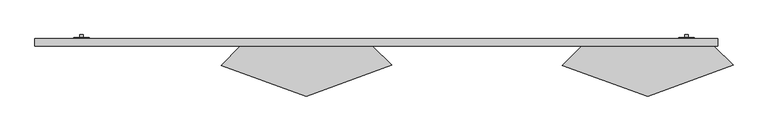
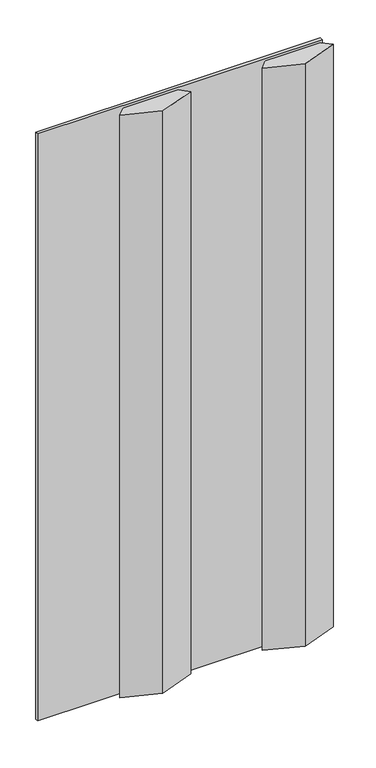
"""IFC4 building model written with IfcOpenShell, lengths in millimetres: proxy geometry, Arktura-SoundForm-Peak-RFA : Arktura-SoundForm-Peak-RFA."""

from ifc_helpers import new_model, si_unit, point, frame, frame_2d, origin, origin_with_axes, place, context, project, spatial, polyline, circle_curve, trimmed, segment, composite_curve, outline, extrude, source, transform, mapped, element, save


def generic_models_549c58fc(model_context):
    return source(origin(), model_context, "Body", "SweptSolid", [
        extrude(outline(polyline([(558.8, -31.75), (533.4, -31.75), (533.4, -30.3215536), (558.8, -30.3215536), (558.8, -31.75)])), frame((0.0, 0.0, 1206.5), z_axis=(0.0, 0.0, 1.0), x_axis=(1.0, 0.0, 0.0)), (0.0, 0.0, 1.0), 25.4),
        extrude(outline(composite_curve([segment(trimmed(circle_curve(frame_2d((1219.2, 546.1)), 3.175), [point((1219.2, 542.925))], [point((1219.2, 549.275))], False, "CARTESIAN"), True, "CONTINUOUS"), segment(trimmed(circle_curve(frame_2d((1219.2, 546.1)), 3.175), [point((1219.2, 549.275))], [point((1219.2, 542.925))], False, "CARTESIAN"), True, "CONTINUOUS")], self_intersect=False)), frame((0.0, -30.3215536, 0.0), z_axis=(0.0, 1.0, 0.0), x_axis=(0.0, 0.0, 1.0)), (0.0, 0.0, 1.0), 4.9215536),
        extrude(outline(polyline([(-431.8, -31.75), (-457.2, -31.75), (-457.2, -30.3215536), (-431.8, -30.3215536), (-431.8, -31.75)])), frame((0.0, 0.0, 1206.5), z_axis=(0.0, 0.0, 1.0), x_axis=(1.0, 0.0, 0.0)), (0.0, 0.0, 1.0), 25.4),
        extrude(outline(composite_curve([segment(trimmed(circle_curve(frame_2d((1219.2, -444.5)), 3.175), [point((1219.2, -447.675))], [point((1219.2, -441.325))], False, "CARTESIAN"), True, "CONTINUOUS"), segment(trimmed(circle_curve(frame_2d((1219.2, -444.5)), 3.175), [point((1219.2, -441.325))], [point((1219.2, -447.675))], False, "CARTESIAN"), True, "CONTINUOUS")], self_intersect=False)), frame((0.0, -30.3215536, 0.0), z_axis=(0.0, 1.0, 0.0), x_axis=(0.0, 0.0, 1.0)), (0.0, 0.0, 1.0), 4.9215536),
        extrude(outline(polyline([(558.8, -31.75), (533.4, -31.75), (533.4, -30.3215536), (558.8, -30.3215536), (558.8, -31.75)])), frame((0.0, 0.0, 2352.675), z_axis=(0.0, 0.0, 1.0), x_axis=(1.0, 0.0, 0.0)), (0.0, 0.0, 1.0), 25.4),
        extrude(outline(composite_curve([segment(trimmed(circle_curve(frame_2d((2365.375, 546.1)), 3.175), [point((2365.375, 542.925))], [point((2365.375, 549.275))], False, "CARTESIAN"), True, "CONTINUOUS"), segment(trimmed(circle_curve(frame_2d((2365.375, 546.1)), 3.175), [point((2365.375, 549.275))], [point((2365.375, 542.925))], False, "CARTESIAN"), True, "CONTINUOUS")], self_intersect=False)), frame((0.0, -30.3215536, 0.0), z_axis=(0.0, 1.0, 0.0), x_axis=(0.0, 0.0, 1.0)), (0.0, 0.0, 1.0), 4.9215536),
        extrude(outline(polyline([(-431.8, -31.75), (-457.2, -31.75), (-457.2, -30.3215536), (-431.8, -30.3215536), (-431.8, -31.75)])), frame((0.0, 0.0, 2352.675), z_axis=(0.0, 0.0, 1.0), x_axis=(1.0, 0.0, 0.0)), (0.0, 0.0, 1.0), 25.4),
        extrude(outline(composite_curve([segment(trimmed(circle_curve(frame_2d((2365.375, -444.5)), 3.175), [point((2365.375, -447.675))], [point((2365.375, -441.325))], False, "CARTESIAN"), True, "CONTINUOUS"), segment(trimmed(circle_curve(frame_2d((2365.375, -444.5)), 3.175), [point((2365.375, -441.325))], [point((2365.375, -447.675))], False, "CARTESIAN"), True, "CONTINUOUS")], self_intersect=False)), frame((0.0, -30.3215536, 0.0), z_axis=(0.0, 1.0, 0.0), x_axis=(0.0, 0.0, 1.0)), (0.0, 0.0, 1.0), 4.9215536),
        extrude(outline(polyline([(558.8, -31.75), (533.4, -31.75), (533.4, -30.3215536), (558.8, -30.3215536), (558.8, -31.75)])), frame((0.0, 0.0, 60.325), z_axis=(0.0, 0.0, 1.0), x_axis=(1.0, 0.0, 0.0)), (0.0, 0.0, 1.0), 25.4),
        extrude(outline(composite_curve([segment(trimmed(circle_curve(frame_2d((73.025, 546.1)), 3.175), [point((73.025, 542.925))], [point((73.025, 549.275))], False, "CARTESIAN"), True, "CONTINUOUS"), segment(trimmed(circle_curve(frame_2d((73.025, 546.1)), 3.175), [point((73.025, 549.275))], [point((73.025, 542.925))], False, "CARTESIAN"), True, "CONTINUOUS")], self_intersect=False)), frame((0.0, -30.3215536, 0.0), z_axis=(0.0, 1.0, 0.0), x_axis=(0.0, 0.0, 1.0)), (0.0, 0.0, 1.0), 4.9215536),
        extrude(outline(polyline([(-431.8, -31.75), (-457.2, -31.75), (-457.2, -30.3215536), (-431.8, -30.3215536), (-431.8, -31.75)])), frame((0.0, 0.0, 60.325), z_axis=(0.0, 0.0, 1.0), x_axis=(1.0, 0.0, 0.0)), (0.0, 0.0, 1.0), 25.4),
        extrude(outline(composite_curve([segment(trimmed(circle_curve(frame_2d((73.025, -444.5)), 3.175), [point((73.025, -447.675))], [point((73.025, -441.325))], False, "CARTESIAN"), True, "CONTINUOUS"), segment(trimmed(circle_curve(frame_2d((73.025, -444.5)), 3.175), [point((73.025, -441.325))], [point((73.025, -447.675))], False, "CARTESIAN"), True, "CONTINUOUS")], self_intersect=False)), frame((0.0, -30.3215536, 0.0), z_axis=(0.0, 1.0, 0.0), x_axis=(0.0, 0.0, 1.0)), (0.0, 0.0, 1.0), 4.9215536),
        extrude(outline(polyline([(-520.7, -43.749976), (-520.7, -31.75), (596.9, -31.75), (596.9, -43.749976), (-520.7, -43.749976)])), origin_with_axes(), (0.0, 0.0, 1.0), 2438.4),
        extrude(outline(polyline([(425.45, -43.7499999), (590.5500179, -43.7499999), (622.3, -74.9283805), (482.6, -127.0), (342.9, -75.499982), (374.6499821, -43.7499999), (425.45, -43.7499999)])), frame((0.0, 0.0, 9.525), z_axis=(0.0, 0.0, 1.0), x_axis=(1.0, 0.0, 0.0)), (0.0, 0.0, 1.0), 2419.35),
        extrude(outline(polyline([(-133.35, -43.7499999), (31.7500179, -43.7499999), (63.5, -74.9283805), (-76.2, -127.0), (-215.9, -75.499982), (-184.1500179, -43.7499999), (-133.35, -43.7499999)])), frame((0.0, 0.0, 9.525), z_axis=(0.0, 0.0, 1.0), x_axis=(1.0, 0.0, 0.0)), (0.0, 0.0, 1.0), 2419.35),
    ])


if __name__ == "__main__":
    model = new_model("IFC4")
    model_context = context("Model", 3, world=origin())
    ifc_project = project(units=[si_unit("LENGTHUNIT", "METRE", prefix="MILLI")], contexts=[model_context])
    site = spatial("IfcSite", under=ifc_project)
    building = spatial("IfcBuilding", under=site)
    placement = place(None, origin())
    generic_models_shape = generic_models_549c58fc(model_context)
    element("IfcBuildingElementProxy", 1, Name="Arktura-SoundForm-Peak-RFA : Arktura-SoundForm-Peak-RFA", ObjectType="Arktura-SoundForm-Peak-RFA : Arktura-SoundForm-Peak-RFA", at=placement, inside=building, context=model_context, shape_type="MappedRepresentation", body=[
        mapped(generic_models_shape, transform((0.0, 0.0, 0.0), x_axis=(1.0, 0.0, 0.0), y_axis=(0.0, 1.0, 0.0), z_axis=(0.0, 0.0, 1.0))),
    ])
    save(model, "model.ifc")
